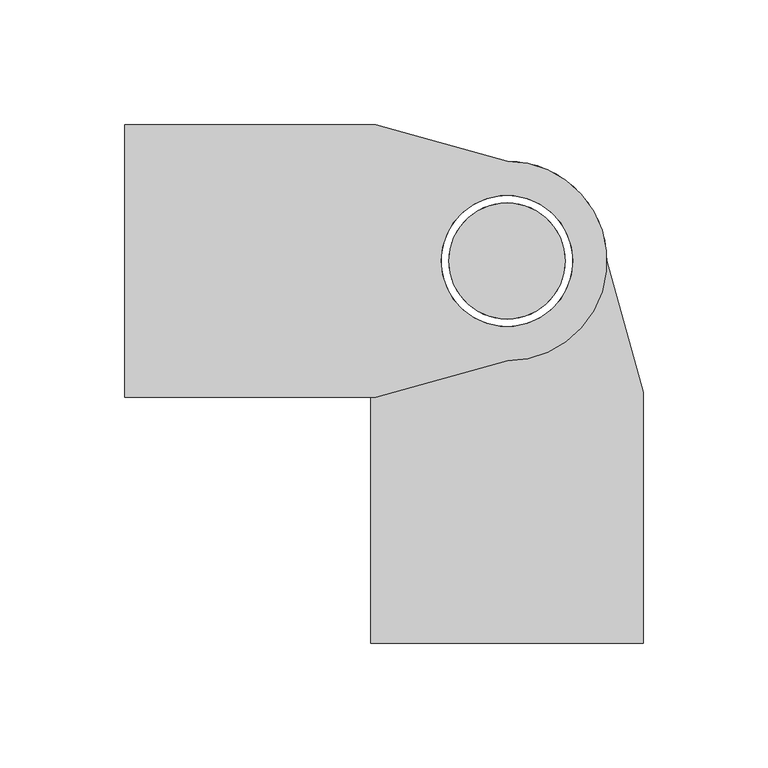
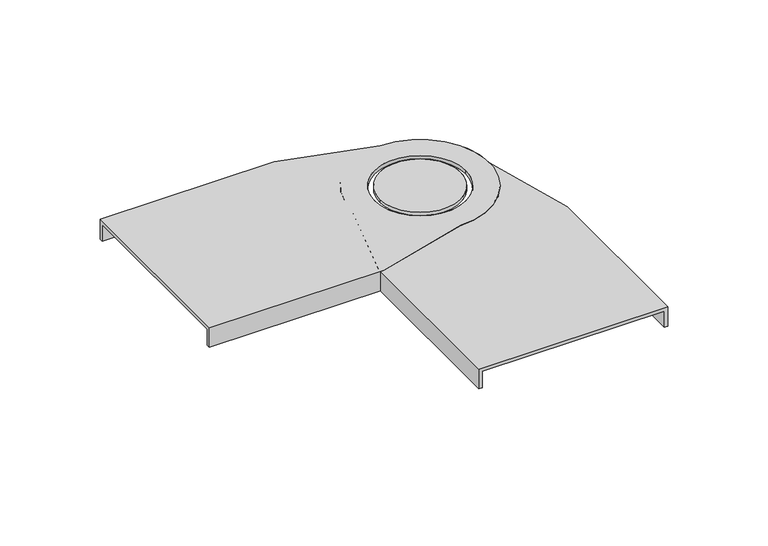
"""IFC4 building model written with IfcOpenShell, lengths in millimetres: cable carrier fitting geometry, BAKS_LD_BEND_Articulated connector_LGC : LGC_H100."""

from ifc_helpers import new_model, si_unit, frame, origin, place, context, project, spatial, polyline, circle_curve, source, transform, mapped, element, save
from ifc_brep_helpers import plane_surface, cylinder_surface, revolved_surface, advanced_brep


def cable_carrier_fitting_a142babc(model_context):
    return source(origin(), model_context, "Body", "AdvancedBrep", [
        advanced_brep(
        [(-153.0, -54.5, 2.0), (-52.5, -54.5, 2.0), (0.0, -40.0, 2.0), (0.0, 40.0, 2.0), (-52.5, 54.5, 2.0), (-153.0, 54.5, 2.0), (26.25, 0.0, 2.0), (-26.25, 0.0, 2.0), (-52.5, 54.5, 0.0), (0.0, 40.0, 0.0), (0.0, -40.0, 0.0), (-52.5, -54.5, 0.0), (-52.5, -52.5, 0.0), (-153.0, -52.5, 0.0), (-153.0, 52.5, 0.0), (-52.5, 52.5, 0.0), (-26.25, 0.0, 0.0), (26.25, 0.0, 0.0), (-153.0, -54.5, -10.0), (-52.5, -54.5, -10.0), (-52.5, 54.5, -10.0), (-153.0, 54.5, -10.0), (-153.0, 52.5, -10.0), (-153.0, -52.5, -10.0), (-52.5, 52.5, -10.0), (-52.5, -52.5, -10.0)],
        [
            (0, 1),
            (1, 2),
            (2, 3, circle_curve(frame((0.0, 0.0, 2.0), z_axis=(0.0, 0.0, 1.0), x_axis=(-1.0, 0.0, 0.0)), 40.0)),
            (3, 4),
            (4, 5),
            (5, 0),
            (6, 7, circle_curve(frame((0.0, 0.0, 2.0), z_axis=(0.0, 0.0, -1.0), x_axis=(-1.0, 0.0, 0.0)), 26.25)),
            (7, 6, circle_curve(frame((0.0, 0.0, 2.0), z_axis=(0.0, 0.0, -1.0), x_axis=(-1.0, 0.0, 0.0)), 26.25)),
            (8, 9),
            (9, 10, circle_curve(frame((0.0, 0.0, 0.0), z_axis=(0.0, 0.0, -1.0), x_axis=(-1.0, 0.0, 0.0)), 40.0)),
            (10, 11),
            (11, 12),
            (12, 13),
            (13, 14),
            (14, 15),
            (15, 8),
            (16, 17, circle_curve(frame((0.0, 0.0, 0.0), z_axis=(0.0, 0.0, 1.0), x_axis=(-1.0, 0.0, 0.0)), 26.25)),
            (17, 16, circle_curve(frame((0.0, 0.0, 0.0), z_axis=(0.0, 0.0, 1.0), x_axis=(-1.0, 0.0, 0.0)), 26.25)),
            (0, 18),
            (18, 19),
            (19, 11),
            (11, 1),
            (4, 8),
            (8, 20),
            (20, 21),
            (21, 5),
            (21, 22),
            (22, 14),
            (13, 23),
            (23, 18),
            (6, 17),
            (16, 7),
            (10, 2),
            (9, 3),
            (20, 24),
            (24, 22),
            (24, 15),
            (23, 25),
            (25, 19),
            (25, 12),
        ],
        [
            plane_surface(frame((-52.5, -54.5, 2.0), z_axis=(0.0, 0.0, 1.0), x_axis=(1.0, 0.0, 0.0))),
            plane_surface(frame((-52.5, -54.5, 0.0), z_axis=(0.0, 0.0, -1.0), x_axis=(-1.0, 0.0, 0.0))),
            plane_surface(frame((-153.0, -54.5, 2.0), z_axis=(0.0, -1.0, 0.0), x_axis=(0.0, 0.0, -1.0))),
            plane_surface(frame((-52.5, 54.5, 2.0), z_axis=(0.0, 1.0, 0.0), x_axis=(0.0, 0.0, -1.0))),
            plane_surface(frame((-153.0, 54.5, 2.0), z_axis=(-1.0, 0.0, 0.0), x_axis=(0.0, 0.0, -1.0))),
            revolved_surface(polyline([(-26.25, 0.0, 2.0), (-26.25, 0.0, 0.0)]), (0.0, 0.0, 0.0), (0.0, 0.0, 1.0)),
            plane_surface(frame((-52.5, -54.5, 2.0), z_axis=(0.266223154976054, -0.9639114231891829, 0.0), x_axis=(0.0, 0.0, -1.0))),
            cylinder_surface(frame((0.0, 0.0, 0.0), z_axis=(0.0, 0.0, 1.0), x_axis=(-1.0, 0.0, 0.0)), 40.0),
            plane_surface(frame((0.0, 40.0, 2.0), z_axis=(0.26622315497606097, 0.963911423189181, 0.0), x_axis=(0.0, 0.0, -1.0))),
            plane_surface(frame((-52.5, 52.5, -10.0), z_axis=(0.0, 0.0, -1.0), x_axis=(-1.0, 0.0, 0.0))),
            plane_surface(frame((-153.0, 52.5, 0.0), z_axis=(0.0, -1.0, 0.0), x_axis=(0.0, 0.0, -1.0))),
            plane_surface(frame((-52.5, 52.5, 0.0), z_axis=(1.0, 0.0, 0.0), x_axis=(0.0, 0.0, -1.0))),
            plane_surface(frame((-52.5, -54.5, -10.0), z_axis=(0.0, 0.0, -1.0), x_axis=(-1.0, 0.0, 0.0))),
            plane_surface(frame((-52.5, -54.5, 0.0), z_axis=(1.0, 0.0, 0.0), x_axis=(0.0, 0.0, -1.0))),
            plane_surface(frame((-52.5, -52.5, 0.0), z_axis=(0.0, 1.0, 0.0), x_axis=(0.0, 0.0, -1.0))),
        ],
        [
            (0, [[1, 2, 3, 4, 5, 6], [7, 8]]),
            (1, [[9, 10, 11, 12, 13, 14, 15, 16], [17, 18]]),
            (2, [[-1, 19, 20, 21, 22]]),
            (3, [[-5, 23, 24, 25, 26]]),
            (4, [[-19, -6, -26, 27, 28, -14, 29, 30]]),
            (5, [[31, -17, 32, -7]]),
            (5, [[-31, -8, -32, -18]]),
            (6, [[-2, -22, -11, 33]]),
            (7, [[-3, -33, -10, 34]]),
            (8, [[-4, -34, -9, -23]]),
            (9, [[-27, -25, 35, 36]]),
            (10, [[-36, 37, -15, -28]]),
            (11, [[-35, -24, -16, -37]]),
            (12, [[-30, 38, 39, -20]]),
            (13, [[-39, 40, -12, -21]]),
            (14, [[-38, -29, -13, -40]]),
        ],
    ),
        advanced_brep(
        [(23.25, 0.0, 2.0), (-23.25, 0.0, 2.0), (-23.25, 0.0, 0.0), (23.25, 0.0, 0.0)],
        [
            (0, 1, circle_curve(frame((0.0, 0.0, 2.0), z_axis=(0.0, 0.0, 1.0), x_axis=(-1.0, 0.0, 0.0)), 23.25)),
            (1, 0, circle_curve(frame((0.0, 0.0, 2.0), z_axis=(0.0, 0.0, 1.0), x_axis=(-1.0, 0.0, 0.0)), 23.25)),
            (2, 3, circle_curve(frame((0.0, 0.0, 0.0), z_axis=(0.0, 0.0, -1.0), x_axis=(-1.0, 0.0, 0.0)), 23.25)),
            (3, 2, circle_curve(frame((0.0, 0.0, 0.0), z_axis=(0.0, 0.0, -1.0), x_axis=(-1.0, 0.0, 0.0)), 23.25)),
            (0, 3),
            (2, 1),
        ],
        [
            plane_surface(frame((-52.5, -54.5, 2.0), z_axis=(0.0, 0.0, 1.0), x_axis=(1.0, 0.0, 0.0))),
            plane_surface(frame((-52.5, -54.5, 0.0), z_axis=(0.0, 0.0, -1.0), x_axis=(-1.0, 0.0, 0.0))),
            cylinder_surface(frame((0.0, 0.0, 0.0), z_axis=(0.0, 0.0, -1.0), x_axis=(-1.0, 0.0, 0.0)), 23.25),
        ],
        [
            (0, [[1, 2]]),
            (1, [[3, 4]]),
            (2, [[5, -3, 6, -1]]),
            (2, [[-5, -2, -6, -4]]),
        ],
    ),
        advanced_brep(
        [(-54.5, -153.0, 2.0), (54.5, -153.0, 2.0), (54.5, -52.5, 2.0), (40.0, 0.0, 2.0), (-40.0, 0.0, 2.0), (-54.5, -52.5, 2.0), (0.0, 26.25, 2.0), (0.0, -26.25, 2.0), (54.5, -52.5, 0.0), (52.5, -52.5, 0.0), (52.5, -153.0, 0.0), (-52.5, -153.0, 0.0), (-52.5, -52.5, 0.0), (-54.5, -52.5, 0.0), (-40.0, 0.0, 0.0), (40.0, 0.0, 0.0), (0.0, -26.25, 0.0), (0.0, 26.25, 0.0), (-54.5, -52.5, -10.0), (-54.5, -153.0, -10.0), (54.5, -153.0, -10.0), (54.5, -52.5, -10.0), (-52.5, -153.0, -10.0), (52.5, -153.0, -10.0), (52.5, -52.5, -10.0), (-52.5, -52.5, -10.0)],
        [
            (0, 1),
            (1, 2),
            (2, 3),
            (3, 4, circle_curve(frame((0.0, 0.0, 2.0), z_axis=(0.0, 0.0, 1.0), x_axis=(0.0, -1.0, 0.0)), 40.0)),
            (4, 5),
            (5, 0),
            (6, 7, circle_curve(frame((0.0, 0.0, 2.0), z_axis=(0.0, 0.0, -1.0), x_axis=(0.0, -1.0, 0.0)), 26.25)),
            (7, 6, circle_curve(frame((0.0, 0.0, 2.0), z_axis=(0.0, 0.0, -1.0), x_axis=(0.0, -1.0, 0.0)), 26.25)),
            (8, 9),
            (9, 10),
            (10, 11),
            (11, 12),
            (12, 13),
            (13, 14),
            (14, 15, circle_curve(frame((0.0, 0.0, 0.0), z_axis=(0.0, 0.0, -1.0), x_axis=(0.0, -1.0, 0.0)), 40.0)),
            (15, 8),
            (16, 17, circle_curve(frame((0.0, 0.0, 0.0), z_axis=(0.0, 0.0, 1.0), x_axis=(0.0, -1.0, 0.0)), 26.25)),
            (17, 16, circle_curve(frame((0.0, 0.0, 0.0), z_axis=(0.0, 0.0, 1.0), x_axis=(0.0, -1.0, 0.0)), 26.25)),
            (5, 13),
            (13, 18),
            (18, 19),
            (19, 0),
            (1, 20),
            (20, 21),
            (21, 8),
            (8, 2),
            (19, 22),
            (22, 11),
            (10, 23),
            (23, 20),
            (7, 16),
            (17, 6),
            (4, 14),
            (3, 15),
            (23, 24),
            (24, 21),
            (9, 24),
            (18, 25),
            (25, 22),
            (12, 25),
        ],
        [
            plane_surface(frame((-54.5, -52.5, 2.0), z_axis=(0.0, 0.0, 1.0), x_axis=(0.0, 1.0, 0.0))),
            plane_surface(frame((-54.5, -52.5, 0.0), z_axis=(0.0, 0.0, -1.0), x_axis=(0.0, -1.0, 0.0))),
            plane_surface(frame((-54.5, -153.0, 2.0), z_axis=(-1.0, 0.0, 0.0), x_axis=(0.0, 0.0, -1.0))),
            plane_surface(frame((54.5, -52.5, 2.0), z_axis=(1.0, 0.0, 0.0), x_axis=(0.0, 0.0, -1.0))),
            plane_surface(frame((54.5, -153.0, 2.0), z_axis=(0.0, -1.0, 0.0), x_axis=(0.0, 0.0, -1.0))),
            revolved_surface(polyline([(0.0, -26.25, 2.0), (0.0, -26.25, 0.0)]), (0.0, 0.0, 0.0), (0.0, 0.0, 1.0)),
            plane_surface(frame((-54.5, -52.5, 2.0), z_axis=(-0.9639114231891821, 0.26622315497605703, 0.0), x_axis=(0.0, 0.0, -1.0))),
            cylinder_surface(frame((0.0, 0.0, 0.0), z_axis=(0.0, 0.0, 1.0), x_axis=(0.0, -1.0, 0.0)), 40.0),
            plane_surface(frame((40.0, 0.0, 2.0), z_axis=(0.9639114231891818, 0.2662231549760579, 0.0), x_axis=(0.0, 0.0, -1.0))),
            plane_surface(frame((52.5, -52.5, -10.0), z_axis=(0.0, 0.0, -1.0), x_axis=(0.0, -1.0, 0.0))),
            plane_surface(frame((52.5, -153.0, 0.0), z_axis=(-1.0, 0.0, 0.0), x_axis=(0.0, 0.0, -1.0))),
            plane_surface(frame((52.5, -52.5, 0.0), z_axis=(0.0, 1.0, 0.0), x_axis=(0.0, 0.0, -1.0))),
            plane_surface(frame((-54.5, -52.5, -10.0), z_axis=(0.0, 0.0, -1.0), x_axis=(0.0, -1.0, 0.0))),
            plane_surface(frame((-54.5, -52.5, 0.0), z_axis=(0.0, 1.0, 0.0), x_axis=(0.0, 0.0, -1.0))),
            plane_surface(frame((-52.5, -52.5, 0.0), z_axis=(1.0, 0.0, 0.0), x_axis=(0.0, 0.0, -1.0))),
        ],
        [
            (0, [[1, 2, 3, 4, 5, 6], [7, 8]]),
            (1, [[9, 10, 11, 12, 13, 14, 15, 16], [17, 18]]),
            (2, [[19, 20, 21, 22, -6]]),
            (3, [[23, 24, 25, 26, -2]]),
            (4, [[27, 28, -11, 29, 30, -23, -1, -22]]),
            (5, [[-8, 31, -18, 32]]),
            (5, [[-17, -31, -7, -32]]),
            (6, [[33, -14, -19, -5]]),
            (7, [[34, -15, -33, -4]]),
            (8, [[-26, -16, -34, -3]]),
            (9, [[35, 36, -24, -30]]),
            (10, [[-29, -10, 37, -35]]),
            (11, [[-37, -9, -25, -36]]),
            (12, [[-21, 38, 39, -27]]),
            (13, [[-20, -13, 40, -38]]),
            (14, [[-40, -12, -28, -39]]),
        ],
    ),
        advanced_brep(
        [(0.0, 23.25, 2.0), (0.0, -23.25, 2.0), (0.0, -23.25, 0.0), (0.0, 23.25, 0.0)],
        [
            (0, 1, circle_curve(frame((0.0, 0.0, 2.0), z_axis=(0.0, 0.0, 1.0), x_axis=(0.0, -1.0, 0.0)), 23.25)),
            (1, 0, circle_curve(frame((0.0, 0.0, 2.0), z_axis=(0.0, 0.0, 1.0), x_axis=(0.0, -1.0, 0.0)), 23.25)),
            (2, 3, circle_curve(frame((0.0, 0.0, 0.0), z_axis=(0.0, 0.0, -1.0), x_axis=(0.0, -1.0, 0.0)), 23.25)),
            (3, 2, circle_curve(frame((0.0, 0.0, 0.0), z_axis=(0.0, 0.0, -1.0), x_axis=(0.0, -1.0, 0.0)), 23.25)),
            (1, 2),
            (3, 0),
        ],
        [
            plane_surface(frame((-54.5, -52.5, 2.0), z_axis=(0.0, 0.0, 1.0), x_axis=(0.0, 1.0, 0.0))),
            plane_surface(frame((-54.5, -52.5, 0.0), z_axis=(0.0, 0.0, -1.0), x_axis=(0.0, -1.0, 0.0))),
            cylinder_surface(frame((0.0, 0.0, 0.0), z_axis=(0.0, 0.0, -1.0), x_axis=(0.0, -1.0, 0.0)), 23.25),
        ],
        [
            (0, [[1, 2]]),
            (1, [[3, 4]]),
            (2, [[-2, 5, -4, 6]]),
            (2, [[-3, -5, -1, -6]]),
        ],
    ),
    ])


if __name__ == "__main__":
    model = new_model("IFC4")
    model_context = context("Model", 3, world=origin())
    ifc_project = project(units=[si_unit("LENGTHUNIT", "METRE", prefix="MILLI")], contexts=[model_context])
    site = spatial("IfcSite", under=ifc_project)
    building = spatial("IfcBuilding", under=site)
    placement = place(None, origin())
    cable_carrier_fitting_shape = cable_carrier_fitting_a142babc(model_context)
    element("IfcCableCarrierFitting", 1, ObjectType="BAKS_LD_BEND_Articulated connector_LGC : LGC_H100", at=placement, inside=building, context=model_context, shape_type="MappedRepresentation", body=[
        mapped(cable_carrier_fitting_shape, transform((0.0, 0.0, 0.0), x_axis=(1.0, 0.0, 0.0), y_axis=(0.0, 1.0, 0.0), z_axis=(0.0, 0.0, 1.0))),
    ])
    save(model, "model.ifc")
